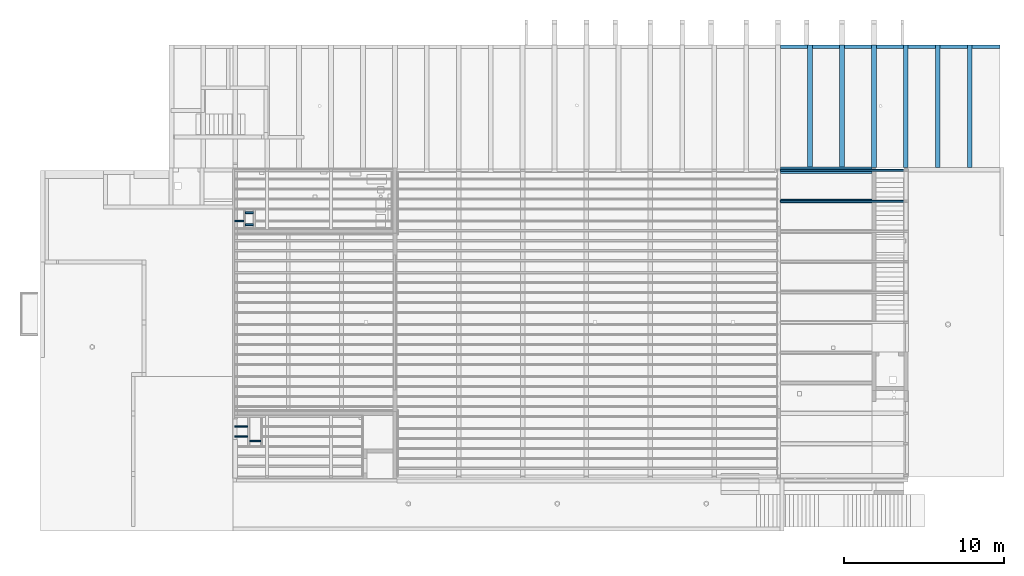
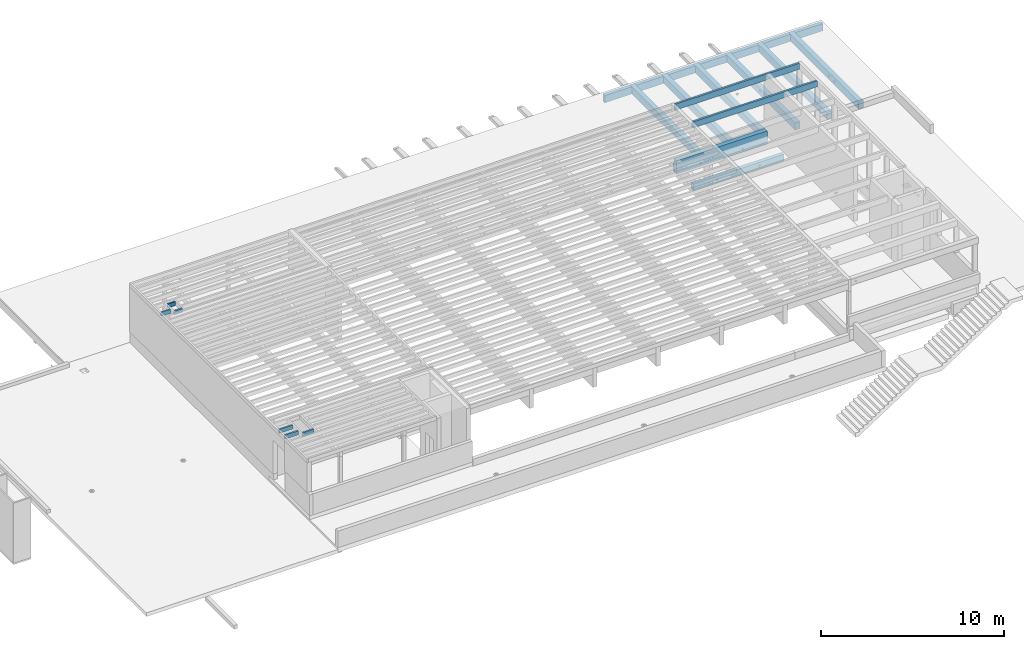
# One storey, part 5 of 14: 23 beams.
"""IFC2X3 building model written with IfcOpenShell, lengths in metres."""

from ifc_helpers import new_model, entity, si_unit, converted_unit, direction, frame, frame_2d, origin, place, context, subcontext, project, spatial, polyline, rectangle, circle, outline, extrude, boolean, material, type_object, element, save


model = new_model("IFC2X3")

# Units and contexts
model_context = context("Model", 3, precision=1e-05, world=frame((30.086303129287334, 2.687674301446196, 462.0)), true_north=direction((0.19008937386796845, 0.9817667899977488)))
body_context = subcontext(model_context, "Body", "Model", "MODEL_VIEW")
ifc_project = project(units=[si_unit("LENGTHUNIT", "METRE"), si_unit("AREAUNIT", "SQUARE_METRE"), converted_unit("PLANEANGLEUNIT", "DEGREE", entity("IfcPlaneAngleMeasure", 0.017453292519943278), si_unit("PLANEANGLEUNIT", "RADIAN"), dimensions=[0, 0, 0, 0, 0, 0, 0]), si_unit("VOLUMEUNIT", "CUBIC_METRE")], contexts=[model_context])

# Site, building, storey
site_placement = place(None, origin())
site = spatial("IfcSite", under=ifc_project, at=site_placement, Name="Default", CompositionType="ELEMENT")
building_placement = place(site_placement, origin())
building = spatial("IfcBuilding", under=site, at=building_placement, CompositionType="ELEMENT")
storey_placement = place(building_placement, origin())
storey = spatial("IfcBuildingStorey", under=building, at=storey_placement, Name="FB_E00_OKFB", CompositionType="ELEMENT", Elevation=0.0)

# Beams
ifc_material_1 = material(Name="WS_TIMBER_GLT_0°")
beam_type_1 = type_object("IfcBeamType", Name="WS_TBM_GLT:TBM_GLT_300/480", PredefinedType="BEAM")
beam_1_placement = place(storey_placement, frame((86.10533821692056, 6.420351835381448, 3.935), z_axis=(0.0, 0.0, 1.0), x_axis=(0.0, -1.0, 0.0)))
element("IfcBeam", 1, at=beam_1_placement, inside=storey, type_object=beam_type_1, material=ifc_material_1, Name="WS_TBM_GLT:TBM_GLT_300/480", ObjectType="WS_TBM_GLT:TBM_GLT_300/480", context=body_context, shape_type="SweptSolid", body=[
    boolean("DIFFERENCE", boolean("DIFFERENCE", extrude(rectangle(XDim=0.4799999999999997, YDim=0.3000000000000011, at=frame_2d((0.0, 5.412337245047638e-16), x_axis=(0.0, 1.0))), frame((-0.11000000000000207, 0.0, -0.24000000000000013), z_axis=(1.0, 0.0, 0.0), x_axis=(0.0, 1.0, 0.0)), (0.0, 0.0, 1.0), 7.6449541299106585), extrude(rectangle(XDim=0.09999999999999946, YDim=0.1, at=frame_2d((0.0, 2.706168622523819e-16), x_axis=(0.0, 1.0))), frame((4.901341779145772, 0.14999999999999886, -0.23999999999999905), z_axis=(0.0, -1.0, 0.0), x_axis=(-1.0, 0.0, 0.0)), (0.0, 0.0, 1.0), 0.3000000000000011)), extrude(rectangle(XDim=0.1, YDim=0.1, at=frame_2d((0.0, 0.0), x_axis=(0.0, 1.0))), frame((4.321341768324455, 0.14999999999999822, -0.2399999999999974), z_axis=(0.0, -1.0, 0.0), x_axis=(-1.0, 0.0, 0.0)), (0.0, 0.0, 1.0), 0.3000000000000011)),
])
beam_2_placement = place(storey_placement, frame((88.10533803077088, 6.420351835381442, 3.935), z_axis=(0.0, 0.0, 1.0), x_axis=(0.0, -1.0, 0.0)))
element("IfcBeam", 2, at=beam_2_placement, inside=storey, type_object=beam_type_1, material=ifc_material_1, Name="WS_TBM_GLT:TBM_GLT_300/480", ObjectType="WS_TBM_GLT:TBM_GLT_300/480", context=body_context, shape_type="SweptSolid", body=[
    boolean("DIFFERENCE", boolean("DIFFERENCE", extrude(rectangle(XDim=0.4799999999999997, YDim=0.3000000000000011, at=frame_2d((0.0, 5.412337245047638e-16), x_axis=(0.0, 1.0))), frame((-0.1100000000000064, 0.0, -0.24000000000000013), z_axis=(1.0, 0.0, 0.0), x_axis=(0.0, 1.0, 0.0)), (0.0, 0.0, 1.0), 7.6449541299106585), extrude(rectangle(XDim=0.09999999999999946, YDim=0.1, at=frame_2d((0.0, 2.706168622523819e-16), x_axis=(0.0, 1.0))), frame((4.901341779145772, 0.14999999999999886, -0.23999999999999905), z_axis=(0.0, -1.0, 0.0), x_axis=(-1.0, 0.0, 0.0)), (0.0, 0.0, 1.0), 0.3000000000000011)), extrude(rectangle(XDim=0.1, YDim=0.1, at=frame_2d((0.0, 0.0), x_axis=(0.0, 1.0))), frame((4.321341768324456, 0.14999999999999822, -0.2399999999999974), z_axis=(0.0, -1.0, 0.0), x_axis=(-1.0, 0.0, 0.0)), (0.0, 0.0, 1.0), 0.3000000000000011)),
])
beam_3_placement = place(storey_placement, frame((90.10533735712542, 6.420351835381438, 3.935), z_axis=(0.0, 0.0, 1.0), x_axis=(0.0, -1.0, 0.0)))
element("IfcBeam", 3, at=beam_3_placement, inside=storey, type_object=beam_type_1, material=ifc_material_1, Name="WS_TBM_GLT:TBM_GLT_300/480", ObjectType="WS_TBM_GLT:TBM_GLT_300/480", context=body_context, shape_type="SweptSolid", body=[
    boolean("DIFFERENCE", boolean("DIFFERENCE", extrude(rectangle(XDim=0.4799999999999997, YDim=0.3000000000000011, at=frame_2d((0.0, 5.412337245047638e-16), x_axis=(0.0, 1.0))), frame((-0.11000000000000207, 0.0, -0.24000000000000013), z_axis=(1.0, 0.0, 0.0), x_axis=(0.0, 1.0, 0.0)), (0.0, 0.0, 1.0), 7.65999963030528), extrude(rectangle(XDim=0.09999999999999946, YDim=0.1, at=frame_2d((0.0, 2.706168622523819e-16), x_axis=(0.0, 1.0))), frame((4.901341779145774, 0.14999999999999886, -0.23999999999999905), z_axis=(0.0, -1.0, 0.0), x_axis=(-1.0, 0.0, 0.0)), (0.0, 0.0, 1.0), 0.3000000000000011)), extrude(rectangle(XDim=0.1, YDim=0.1, at=frame_2d((0.0, 0.0), x_axis=(0.0, 1.0))), frame((4.321341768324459, 0.14999999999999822, -0.2399999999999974), z_axis=(0.0, -1.0, 0.0), x_axis=(-1.0, 0.0, 0.0)), (0.0, 0.0, 1.0), 0.3000000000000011)),
])
beam_4_placement = place(storey_placement, frame((92.10533735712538, 6.420351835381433, 3.935), z_axis=(0.0, 0.0, 1.0), x_axis=(0.0, -1.0, 0.0)))
element("IfcBeam", 4, at=beam_4_placement, inside=storey, type_object=beam_type_1, material=ifc_material_1, Name="WS_TBM_GLT:TBM_GLT_300/480", ObjectType="WS_TBM_GLT:TBM_GLT_300/480", context=body_context, shape_type="SweptSolid", body=[
    boolean("DIFFERENCE", boolean("DIFFERENCE", boolean("DIFFERENCE", extrude(rectangle(XDim=0.4799999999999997, YDim=0.3000000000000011, at=frame_2d((0.0, 5.412337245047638e-16), x_axis=(0.0, 1.0))), frame((-0.11000000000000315, 0.0, -0.24000000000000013), z_axis=(1.0, 0.0, 0.0), x_axis=(0.0, 1.0, 0.0)), (0.0, 0.0, 1.0), 7.660006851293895), extrude(circle(Radius=0.08500000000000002, at=frame_2d((0.0, -3.627604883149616e-14), x_axis=(1.0, 0.0))), frame((3.7063418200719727, 0.14999999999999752, -0.20499999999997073), z_axis=(0.0, -1.0, 0.0), x_axis=(1.0, 0.0, 0.0)), (0.0, 0.0, 1.0), 0.3000000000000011)), extrude(rectangle(XDim=0.09999999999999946, YDim=0.1, at=frame_2d((0.0, 2.706168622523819e-16), x_axis=(0.0, 1.0))), frame((4.901341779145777, 0.14999999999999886, -0.23999999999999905), z_axis=(0.0, -1.0, 0.0), x_axis=(-1.0, 0.0, 0.0)), (0.0, 0.0, 1.0), 0.3000000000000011)), extrude(rectangle(XDim=0.1, YDim=0.1, at=frame_2d((0.0, 0.0), x_axis=(0.0, 1.0))), frame((4.3213417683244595, 0.14999999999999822, -0.2399999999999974), z_axis=(0.0, -1.0, 0.0), x_axis=(-1.0, 0.0, 0.0)), (0.0, 0.0, 1.0), 0.3000000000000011)),
])
beam_5_placement = place(storey_placement, frame((94.10533747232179, 6.420351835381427, 3.935), z_axis=(0.0, 0.0, 1.0), x_axis=(0.0, -1.0, 0.0)))
element("IfcBeam", 5, at=beam_5_placement, inside=storey, type_object=beam_type_1, material=ifc_material_1, Name="WS_TBM_GLT:TBM_GLT_300/480", ObjectType="WS_TBM_GLT:TBM_GLT_300/480", context=body_context, shape_type="SweptSolid", body=[
    boolean("DIFFERENCE", boolean("DIFFERENCE", extrude(rectangle(XDim=0.4799999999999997, YDim=0.3000000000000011, at=frame_2d((0.0, 5.412337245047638e-16), x_axis=(0.0, 1.0))), frame((-0.11000000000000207, 0.0, -0.24000000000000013), z_axis=(1.0, 0.0, 0.0), x_axis=(0.0, 1.0, 0.0)), (0.0, 0.0, 1.0), 7.660006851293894), extrude(rectangle(XDim=0.09999999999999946, YDim=0.1, at=frame_2d((0.0, 2.706168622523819e-16), x_axis=(0.0, 1.0))), frame((4.901341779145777, 0.14999999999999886, -0.23999999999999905), z_axis=(0.0, -1.0, 0.0), x_axis=(-1.0, 0.0, 0.0)), (0.0, 0.0, 1.0), 0.3000000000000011)), extrude(rectangle(XDim=0.1, YDim=0.1, at=frame_2d((0.0, 0.0), x_axis=(0.0, 1.0))), frame((4.32134176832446, 0.14999999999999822, -0.2399999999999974), z_axis=(0.0, -1.0, 0.0), x_axis=(-1.0, 0.0, 0.0)), (0.0, 0.0, 1.0), 0.3000000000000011)),
])
beam_6_placement = place(storey_placement, frame((96.10533728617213, 6.420351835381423, 3.935), z_axis=(0.0, 0.0, 1.0), x_axis=(0.0, -1.0, 0.0)))
element("IfcBeam", 6, at=beam_6_placement, inside=storey, type_object=beam_type_1, material=ifc_material_1, Name="WS_TBM_GLT:TBM_GLT_300/480", ObjectType="WS_TBM_GLT:TBM_GLT_300/480", context=body_context, shape_type="SweptSolid", body=[
    boolean("DIFFERENCE", boolean("DIFFERENCE", extrude(rectangle(XDim=0.4799999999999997, YDim=0.3000000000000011, at=frame_2d((0.0, 5.412337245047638e-16), x_axis=(0.0, 1.0))), frame((-0.10999999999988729, 0.0, -0.24000000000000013), z_axis=(1.0, 0.0, 0.0), x_axis=(0.0, 1.0, 0.0)), (0.0, 0.0, 1.0), 7.660006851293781), extrude(rectangle(XDim=0.09999999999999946, YDim=0.1, at=frame_2d((0.0, 2.706168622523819e-16), x_axis=(0.0, 1.0))), frame((4.9013417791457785, 0.14999999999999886, -0.23999999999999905), z_axis=(0.0, -1.0, 0.0), x_axis=(-1.0, 0.0, 0.0)), (0.0, 0.0, 1.0), 0.3000000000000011)), extrude(rectangle(XDim=0.1, YDim=0.1, at=frame_2d((0.0, 0.0), x_axis=(0.0, 1.0))), frame((4.321341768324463, 0.14999999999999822, -0.2399999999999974), z_axis=(0.0, -1.0, 0.0), x_axis=(-1.0, 0.0, 0.0)), (0.0, 0.0, 1.0), 0.3000000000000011)),
])
beam_type_2 = type_object("IfcBeamType", Name="WS_TBM_GLT:TBM_GLT_220/480", PredefinedType="BEAM")
beam_7_placement = place(storey_placement, frame((96.10533728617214, 6.420351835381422, 3.935)))
element("IfcBeam", 7, at=beam_7_placement, inside=storey, type_object=beam_type_2, material=ifc_material_1, Name="WS_TBM_GLT:TBM_GLT_220/480", ObjectType="WS_TBM_GLT:TBM_GLT_220/480", context=body_context, shape_type="SweptSolid", body=[
    extrude(rectangle(XDim=0.47999999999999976, YDim=0.2199999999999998, at=frame_2d((2.636779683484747e-16, 4.3298697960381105e-15), x_axis=(1.0, 0.0))), frame((0.1500000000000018, 0.0, -0.23999999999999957), z_axis=(1.0, 0.0, 0.0), x_axis=(0.0, 0.0, -1.0)), (0.0, 0.0, 1.0), 1.750000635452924),
])
beam_8_placement = place(storey_placement, frame((84.10533735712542, 6.420351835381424, 3.935)))
element("IfcBeam", 8, at=beam_8_placement, inside=storey, type_object=beam_type_2, material=ifc_material_1, Name="WS_TBM_GLT:TBM_GLT_220/480", ObjectType="WS_TBM_GLT:TBM_GLT_220/480", context=body_context, shape_type="SweptSolid", body=[
    extrude(rectangle(XDim=0.47999999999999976, YDim=0.2199999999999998, at=frame_2d((2.636779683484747e-16, 4.3298697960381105e-15), x_axis=(1.0, 0.0))), frame((0.1500000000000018, 0.0, -0.23999999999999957), z_axis=(1.0, 0.0, 0.0), x_axis=(0.0, 0.0, -1.0)), (0.0, 0.0, 1.0), 1.7000008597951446),
])
beam_9_placement = place(storey_placement, frame((86.10533821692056, 6.4203518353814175, 3.935)))
element("IfcBeam", 9, at=beam_9_placement, inside=storey, type_object=beam_type_2, material=ifc_material_1, Name="WS_TBM_GLT:TBM_GLT_220/480", ObjectType="WS_TBM_GLT:TBM_GLT_220/480", context=body_context, shape_type="SweptSolid", body=[
    extrude(rectangle(XDim=0.47999999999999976, YDim=0.2199999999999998, at=frame_2d((2.636779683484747e-16, 4.3298697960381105e-15), x_axis=(1.0, 0.0))), frame((0.1500000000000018, 0.0, -0.23999999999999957), z_axis=(1.0, 0.0, 0.0), x_axis=(0.0, 0.0, -1.0)), (0.0, 0.0, 1.0), 1.6999998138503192),
])
beam_10_placement = place(storey_placement, frame((88.10533803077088, 6.42035183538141, 3.935)))
element("IfcBeam", 10, at=beam_10_placement, inside=storey, type_object=beam_type_2, material=ifc_material_1, Name="WS_TBM_GLT:TBM_GLT_220/480", ObjectType="WS_TBM_GLT:TBM_GLT_220/480", context=body_context, shape_type="SweptSolid", body=[
    extrude(rectangle(XDim=0.47999999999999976, YDim=0.2199999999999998, at=frame_2d((2.636779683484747e-16, 4.3298697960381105e-15), x_axis=(1.0, 0.0))), frame((0.1500000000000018, 0.0, -0.23999999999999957), z_axis=(1.0, 0.0, 0.0), x_axis=(0.0, 0.0, -1.0)), (0.0, 0.0, 1.0), 1.699999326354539),
])
beam_11_placement = place(storey_placement, frame((90.10533735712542, 6.420351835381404, 3.935)))
element("IfcBeam", 11, at=beam_11_placement, inside=storey, type_object=beam_type_2, material=ifc_material_1, Name="WS_TBM_GLT:TBM_GLT_220/480", ObjectType="WS_TBM_GLT:TBM_GLT_220/480", context=body_context, shape_type="SweptSolid", body=[
    extrude(rectangle(XDim=0.47999999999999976, YDim=0.2199999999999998, at=frame_2d((2.636779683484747e-16, 4.3298697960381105e-15), x_axis=(1.0, 0.0))), frame((0.14999999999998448, 0.0, -0.23999999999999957), z_axis=(1.0, 0.0, 0.0), x_axis=(0.0, 0.0, -1.0)), (0.0, 0.0, 1.0), 1.6999999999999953),
])
beam_12_placement = place(storey_placement, frame((92.10533735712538, 6.420351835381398, 3.935)))
element("IfcBeam", 12, at=beam_12_placement, inside=storey, type_object=beam_type_2, material=ifc_material_1, Name="WS_TBM_GLT:TBM_GLT_220/480", ObjectType="WS_TBM_GLT:TBM_GLT_220/480", context=body_context, shape_type="SweptSolid", body=[
    extrude(rectangle(XDim=0.47999999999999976, YDim=0.2199999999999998, at=frame_2d((2.636779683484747e-16, 4.3298697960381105e-15), x_axis=(1.0, 0.0))), frame((0.1500000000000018, 0.0, -0.23999999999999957), z_axis=(1.0, 0.0, 0.0), x_axis=(0.0, 0.0, -1.0)), (0.0, 0.0, 1.0), 1.700000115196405),
])
beam_13_placement = place(storey_placement, frame((94.10533747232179, 6.420351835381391, 3.935)))
element("IfcBeam", 13, at=beam_13_placement, inside=storey, type_object=beam_type_2, material=ifc_material_1, Name="WS_TBM_GLT:TBM_GLT_220/480", ObjectType="WS_TBM_GLT:TBM_GLT_220/480", context=body_context, shape_type="SweptSolid", body=[
    extrude(rectangle(XDim=0.47999999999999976, YDim=0.2199999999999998, at=frame_2d((2.636779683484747e-16, 4.3298697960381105e-15), x_axis=(1.0, 0.0))), frame((0.1500000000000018, 0.0, -0.23999999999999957), z_axis=(1.0, 0.0, 0.0), x_axis=(0.0, 0.0, -1.0)), (0.0, 0.0, 1.0), 1.699999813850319),
])
beam_type_3 = type_object("IfcBeamType", Name="WS_TBM_GLT:TBM_GLT_400/880", PredefinedType="BEAM")
beam_14_placement = place(storey_placement, frame((90.10533735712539, -1.3146022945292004, 4.335000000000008), z_axis=(0.0, 0.0, 1.0), x_axis=(-1.0, 0.0, 0.0)))
element("IfcBeam", 14, at=beam_14_placement, inside=storey, type_object=beam_type_3, material=ifc_material_1, Name="WS_TBM_GLT:TBM_GLT_400/880", ObjectType="WS_TBM_GLT:TBM_GLT_400/880", context=body_context, shape_type="SweptSolid", body=[
    boolean("DIFFERENCE", boolean("DIFFERENCE", extrude(outline(polyline([(-0.1733333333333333, -0.45333333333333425), (0.22666666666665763, -0.45333333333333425), (0.2266666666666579, 0.42666666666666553), (-0.05333333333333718, 0.42666666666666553), (-0.05333333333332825, 0.026666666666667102), (-0.1733333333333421, 0.026666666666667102), (-0.1733333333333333, -0.45333333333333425)])), frame((0.12499984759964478, -0.026666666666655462, -0.42666666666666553), z_axis=(1.0, 0.0, 0.0), x_axis=(0.0, 1.0, 0.0)), (0.0, 0.0, 1.0), 5.725009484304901), extrude(rectangle(XDim=0.1, YDim=0.0999999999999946, at=frame_2d((-8.659739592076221e-15, 0.0), x_axis=(0.0, 1.0))), frame((4.335939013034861, 0.2000000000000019, -0.6600000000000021), z_axis=(0.0, -1.0, 0.0), x_axis=(-1.0, 0.0, 0.0)), (0.0, 0.0, 1.0), 0.4)), extrude(rectangle(XDim=0.1, YDim=0.0999999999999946, at=frame_2d((8.659739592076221e-15, -2.706168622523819e-16), x_axis=(0.0, 1.0))), frame((1.6777920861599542, 0.20000000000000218, -0.6600000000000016), z_axis=(0.0, -1.0, 0.0), x_axis=(-1.0, 0.0, 0.0)), (0.0, 0.0, 1.0), 0.4)),
])
beam_type_4 = type_object("IfcBeamType", Name="WS_TBM_GLT:TBM_GLT_240/440", PredefinedType="BEAM")
beam_15_placement = place(storey_placement, frame((90.10533735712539, -3.234649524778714, 3.8950000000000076), z_axis=(0.0, 0.0, 1.0), x_axis=(-1.0, 0.0, 0.0)))
element("IfcBeam", 15, at=beam_15_placement, inside=storey, type_object=beam_type_4, material=ifc_material_1, Name="WS_TBM_GLT:TBM_GLT_240/440", ObjectType="WS_TBM_GLT:TBM_GLT_240/440", context=body_context, shape_type="SweptSolid", body=[
    boolean("DIFFERENCE", boolean("DIFFERENCE", extrude(rectangle(XDim=0.44000000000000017, YDim=0.24000000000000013, at=frame_2d((-8.93729534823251e-15, 2.636779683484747e-16), x_axis=(0.0, 1.0))), frame((0.12499984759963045, 0.0, -0.22000000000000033), z_axis=(1.0, 0.0, 0.0), x_axis=(0.0, 1.0, 0.0)), (0.0, 0.0, 1.0), 5.724998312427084), extrude(rectangle(XDim=0.1, YDim=0.0999999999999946, at=frame_2d((-8.659739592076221e-15, 0.0), x_axis=(0.0, 1.0))), frame((4.335939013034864, 0.12000000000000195, -0.22000000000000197), z_axis=(0.0, -1.0, 0.0), x_axis=(-1.0, 0.0, 0.0)), (0.0, 0.0, 1.0), 0.24000000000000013)), extrude(rectangle(XDim=0.1, YDim=0.0999999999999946, at=frame_2d((8.659739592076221e-15, 0.0), x_axis=(0.0, 1.0))), frame((1.6777920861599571, 0.1200000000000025, -0.22000000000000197), z_axis=(0.0, -1.0, 0.0), x_axis=(-1.0, 0.0, 0.0)), (0.0, 0.0, 1.0), 0.24000000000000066)),
])
ifc_material_2 = material(Name="WS_TIMBER")
beam_type_5 = type_object("IfcBeamType", Name="WS_TBM_KVH:TBM_KVH_100/260", PredefinedType="BEAM")
beam_16_placement = place(storey_placement, frame((50.95120725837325, -17.96964824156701, 8.04), z_axis=(0.0, 0.0, 1.0), x_axis=(-1.0, 0.0, 0.0)))
element("IfcBeam", 16, at=beam_16_placement, inside=storey, type_object=beam_type_5, material=ifc_material_2, Name="WS_TBM_KVH:TBM_KVH_100/260", ObjectType="WS_TBM_KVH:TBM_KVH_100/260", context=body_context, shape_type="SweptSolid", body=[
    extrude(rectangle(XDim=0.26000000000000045, YDim=0.09999999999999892, at=frame_2d((5.412337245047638e-16, 2.1649348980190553e-15), x_axis=(1.0, 0.0))), frame((0.04999999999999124, 0.0, -0.1299999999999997), z_axis=(1.0, 0.0, 0.0), x_axis=(0.0, 0.0, -1.0)), (0.0, 0.0, 1.0), 0.840869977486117),
])
beam_17_placement = place(storey_placement, frame((50.90120725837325, -17.34464824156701, 8.04), z_axis=(0.0, 0.0, 1.0), x_axis=(-1.0, 0.0, 0.0)))
element("IfcBeam", 17, at=beam_17_placement, inside=storey, type_object=beam_type_5, material=ifc_material_2, Name="WS_TBM_KVH:TBM_KVH_100/260", ObjectType="WS_TBM_KVH:TBM_KVH_100/260", context=body_context, shape_type="SweptSolid", body=[
    extrude(rectangle(XDim=0.26000000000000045, YDim=0.09999999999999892, at=frame_2d((5.412337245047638e-16, 0.0), x_axis=(1.0, 0.0))), frame((0.0, 0.0, -0.1299999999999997), z_axis=(1.0, 0.0, 0.0), x_axis=(0.0, 0.0, -1.0)), (0.0, 0.0, 1.0), 0.8408699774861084),
])
beam_18_placement = place(storey_placement, frame((51.7512072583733, -18.2621638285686, 8.04), z_axis=(0.0, 0.0, 1.0), x_axis=(-1.0, 0.0, 0.0)))
element("IfcBeam", 18, at=beam_18_placement, inside=storey, type_object=beam_type_5, material=ifc_material_2, Name="WS_TBM_KVH:TBM_KVH_100/260", ObjectType="WS_TBM_KVH:TBM_KVH_100/260", context=body_context, shape_type="SweptSolid", body=[
    extrude(rectangle(XDim=0.26000000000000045, YDim=0.09999999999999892, at=frame_2d((5.412337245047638e-16, 2.1649348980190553e-15), x_axis=(1.0, 0.0))), frame((0.04999999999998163, 0.0, -0.1299999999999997), z_axis=(1.0, 0.0, 0.0), x_axis=(0.0, 0.0, -1.0)), (0.0, 0.0, 1.0), 0.7000000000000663),
])
beam_19_placement = place(storey_placement, frame((50.6953373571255, -4.472106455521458, 8.04), z_axis=(0.0, 0.0, 1.0), x_axis=(-1.0, 0.0, 0.0)))
element("IfcBeam", 19, at=beam_19_placement, inside=storey, type_object=beam_type_5, material=ifc_material_2, Name="WS_TBM_KVH:TBM_KVH_100/260", ObjectType="WS_TBM_KVH:TBM_KVH_100/260", context=body_context, shape_type="SweptSolid", body=[
    extrude(rectangle(XDim=0.26000000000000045, YDim=0.09999999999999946, at=frame_2d((5.412337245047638e-16, 1.8943180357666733e-15), x_axis=(1.0, 0.0))), frame((0.05000000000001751, 0.0, -0.1299999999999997), z_axis=(1.0, 0.0, 0.0), x_axis=(0.0, 0.0, -1.0)), (0.0, 0.0, 1.0), 0.5850000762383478),
])
beam_20_placement = place(storey_placement, frame((51.29533735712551, -3.9658774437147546, 8.04), z_axis=(0.0, 0.0, 1.0), x_axis=(-1.0, 0.0, 0.0)))
element("IfcBeam", 20, at=beam_20_placement, inside=storey, type_object=beam_type_5, material=ifc_material_2, Name="WS_TBM_KVH:TBM_KVH_100/260", ObjectType="WS_TBM_KVH:TBM_KVH_100/260", context=body_context, shape_type="SweptSolid", body=[
    extrude(rectangle(XDim=0.26000000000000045, YDim=0.1, at=frame_2d((5.412337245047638e-16, 1.6237011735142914e-15), x_axis=(1.0, 0.0))), frame((0.050000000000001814, 0.0, -0.1299999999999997), z_axis=(1.0, 0.0, 0.0), x_axis=(0.0, 0.0, -1.0)), (0.0, 0.0, 1.0), 0.500000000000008),
])
beam_21_placement = place(storey_placement, frame((51.29533735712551, -4.715877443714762, 8.04), z_axis=(0.0, 0.0, 1.0), x_axis=(-1.0, 0.0, 0.0)))
element("IfcBeam", 21, at=beam_21_placement, inside=storey, type_object=beam_type_5, material=ifc_material_2, Name="WS_TBM_KVH:TBM_KVH_100/260", ObjectType="WS_TBM_KVH:TBM_KVH_100/260", context=body_context, shape_type="SweptSolid", body=[
    extrude(rectangle(XDim=0.26000000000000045, YDim=0.1, at=frame_2d((5.412337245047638e-16, 1.6237011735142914e-15), x_axis=(1.0, 0.0))), frame((0.05000000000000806, 0.0, -0.1299999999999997), z_axis=(1.0, 0.0, 0.0), x_axis=(0.0, 0.0, -1.0)), (0.0, 0.0, 1.0), 0.500000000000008),
])
beam_type_6 = type_object("IfcBeamType", Name="WS_TBM_GLT:TBM_GLT_120/400", PredefinedType="BEAM")
beam_22_placement = place(storey_placement, frame((92.18033733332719, -3.2346475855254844, 8.004999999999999), z_axis=(0.0, 0.0, 1.0), x_axis=(-1.0, 0.0, 0.0)))
element("IfcBeam", 22, at=beam_22_placement, inside=storey, type_object=beam_type_6, material=ifc_material_1, Name="WS_TBM_GLT:TBM_GLT_120/400", ObjectType="WS_TBM_GLT:TBM_GLT_120/400", context=body_context, shape_type="SweptSolid", body=[
    extrude(rectangle(XDim=0.4, YDim=0.12000000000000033, at=frame_2d((0.0, 2.544839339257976e-14), x_axis=(1.0, 0.0))), frame((0.08000000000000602, 0.0, -0.2), z_axis=(1.0, 0.0, 0.0), x_axis=(0.0, 0.0, -1.0)), (0.0, 0.0, 1.0), 7.844999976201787),
])
beam_23_placement = place(storey_placement, frame((92.18033733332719, -1.2946022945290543, 8.004999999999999), z_axis=(0.0, 0.0, 1.0), x_axis=(-1.0, 0.0, 0.0)))
element("IfcBeam", 23, at=beam_23_placement, inside=storey, type_object=beam_type_6, material=ifc_material_1, Name="WS_TBM_GLT:TBM_GLT_120/400", ObjectType="WS_TBM_GLT:TBM_GLT_120/400", context=body_context, shape_type="SweptSolid", body=[
    extrude(rectangle(XDim=0.4, YDim=0.11999999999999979, at=frame_2d((0.0, 2.544839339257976e-14), x_axis=(1.0, 0.0))), frame((0.07999999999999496, 0.0, -0.2), z_axis=(1.0, 0.0, 0.0), x_axis=(0.0, 0.0, -1.0)), (0.0, 0.0, 1.0), 7.844999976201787),
])

save(model, "model.ifc")
